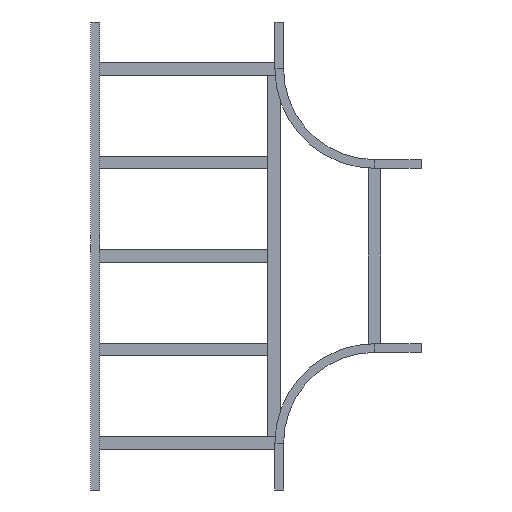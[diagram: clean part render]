
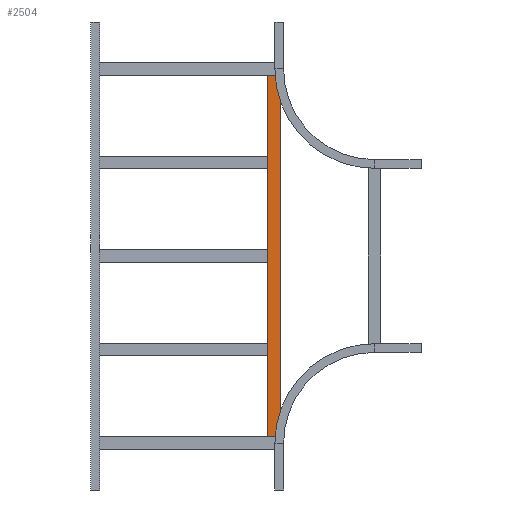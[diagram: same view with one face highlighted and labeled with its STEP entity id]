
A CAD part, front view. The second image highlights one B-rep face of the part: STEP entity #2504.
In plain terms, the highlighted planar face has unit normal (0, -1, 0).
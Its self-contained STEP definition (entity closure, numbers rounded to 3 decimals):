
#46 = CARTESIAN_POINT ( 'NONE',  ( 579.75, 0., -20.25 ) ) ;
#96 = VECTOR ( 'NONE', #1371, 1000. ) ;
#145 = VECTOR ( 'NONE', #838, 1000. ) ;
#228 = AXIS2_PLACEMENT_3D ( 'NONE', #2185, #3173, #681 ) ;
#239 = EDGE_CURVE ( 'NONE', #692, #3126, #3045, .T. ) ;
#388 = VERTEX_POINT ( 'NONE', #46 ) ;
#400 = EDGE_CURVE ( 'NONE', #3126, #477, #821, .T. ) ;
#474 = CARTESIAN_POINT ( 'NONE',  ( 579.75, 0., 20.25 ) ) ;
#477 = VERTEX_POINT ( 'NONE', #632 ) ;
#632 = CARTESIAN_POINT ( 'NONE',  ( -579.75, 0., -20.25 ) ) ;
#681 = DIRECTION ( 'NONE',  ( 0., 0., 1. ) ) ;
#692 = VERTEX_POINT ( 'NONE', #1499 ) ;
#774 = DIRECTION ( 'NONE',  ( -1., 0., 0. ) ) ;
#821 = LINE ( 'NONE', #857, #145 ) ;
#838 = DIRECTION ( 'NONE',  ( 0., 0., -1. ) ) ;
#857 = CARTESIAN_POINT ( 'NONE',  ( -579.75, 0., 20.25 ) ) ;
#917 = ORIENTED_EDGE ( 'NONE', *, *, #239, .T. ) ;
#955 = CARTESIAN_POINT ( 'NONE',  ( 579.75, 0., 20.25 ) ) ;
#1194 = FACE_OUTER_BOUND ( 'NONE', #1474, .T. ) ;
#1232 = ORIENTED_EDGE ( 'NONE', *, *, #400, .T. ) ;
#1278 = VECTOR ( 'NONE', #774, 1000. ) ;
#1371 = DIRECTION ( 'NONE',  ( -1., 0., 0. ) ) ;
#1392 = DIRECTION ( 'NONE',  ( 0., 0., -1. ) ) ;
#1474 = EDGE_LOOP ( 'NONE', ( #1232, #2442, #2809, #917 ) ) ;
#1499 = CARTESIAN_POINT ( 'NONE',  ( 579.75, 0., 20.25 ) ) ;
#1580 = EDGE_CURVE ( 'NONE', #692, #388, #1943, .T. ) ;
#1584 = CARTESIAN_POINT ( 'NONE',  ( 579.75, 0., -20.25 ) ) ;
#1784 = CARTESIAN_POINT ( 'NONE',  ( -579.75, 0., 20.25 ) ) ;
#1943 = LINE ( 'NONE', #955, #2306 ) ;
#1982 = EDGE_CURVE ( 'NONE', #388, #477, #2834, .T. ) ;
#2185 = CARTESIAN_POINT ( 'NONE',  ( 579.75, 0., 20.25 ) ) ;
#2306 = VECTOR ( 'NONE', #1392, 1000. ) ;
#2442 = ORIENTED_EDGE ( 'NONE', *, *, #1982, .F. ) ;
#2504 = ADVANCED_FACE ( 'NONE', ( #1194 ), #2637, .F. ) ;
#2637 = PLANE ( 'NONE',  #228 ) ;
#2809 = ORIENTED_EDGE ( 'NONE', *, *, #1580, .F. ) ;
#2834 = LINE ( 'NONE', #1584, #96 ) ;
#3045 = LINE ( 'NONE', #474, #1278 ) ;
#3126 = VERTEX_POINT ( 'NONE', #1784 ) ;
#3173 = DIRECTION ( 'NONE',  ( 0., 1., 0. ) ) ;
